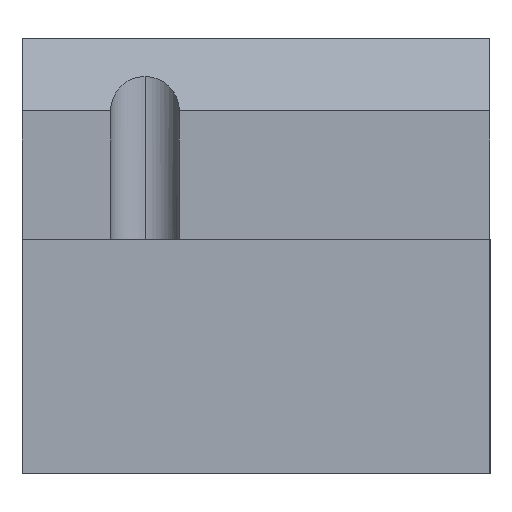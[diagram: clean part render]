
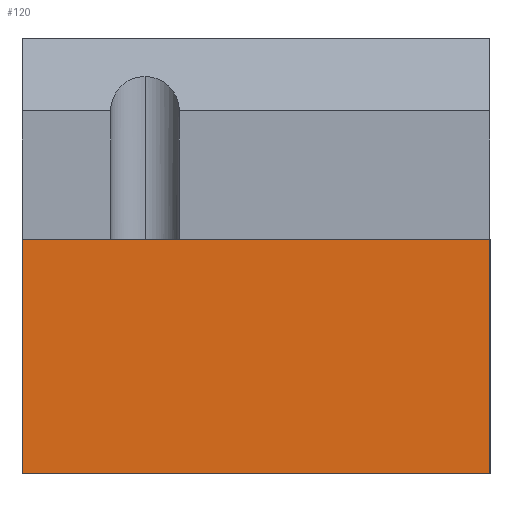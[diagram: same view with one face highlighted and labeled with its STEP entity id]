
A CAD part, left-side view. The second image highlights one B-rep face of the part: STEP entity #120.
In plain terms, the highlighted planar face has unit normal (-1, 0, 0).
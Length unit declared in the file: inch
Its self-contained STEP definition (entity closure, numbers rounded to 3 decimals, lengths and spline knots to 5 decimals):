
#14 = EDGE_CURVE ( 'NONE', #598, #610, #23, .T. ) ;
#23 = LINE ( 'NONE', #627, #224 ) ;
#68 = CARTESIAN_POINT ( 'NONE',  ( -1.86526, -0.81854, 0.875 ) ) ;
#71 = DIRECTION ( 'NONE',  ( 0., 1., 0. ) ) ;
#85 = EDGE_CURVE ( 'NONE', #823, #369, #243, .T. ) ;
#101 = ORIENTED_EDGE ( 'NONE', *, *, #85, .F. ) ;
#103 = DIRECTION ( 'NONE',  ( 0., 0., -1. ) ) ;
#120 = ADVANCED_FACE ( 'NONE', ( #333 ), #634, .F. ) ;
#150 = DIRECTION ( 'NONE',  ( 0., -1., 0. ) ) ;
#156 = CARTESIAN_POINT ( 'NONE',  ( -1.86526, 0.93146, 0. ) ) ;
#194 = EDGE_CURVE ( 'NONE', #610, #369, #425, .T. ) ;
#224 = VECTOR ( 'NONE', #769, 39.37008 ) ;
#243 = LINE ( 'NONE', #677, #830 ) ;
#267 = ORIENTED_EDGE ( 'NONE', *, *, #747, .T. ) ;
#271 = CARTESIAN_POINT ( 'NONE',  ( -1.86526, -0.81854, 0. ) ) ;
#333 = FACE_OUTER_BOUND ( 'NONE', #755, .T. ) ;
#369 = VERTEX_POINT ( 'NONE', #271 ) ;
#425 = LINE ( 'NONE', #156, #819 ) ;
#437 = ORIENTED_EDGE ( 'NONE', *, *, #194, .T. ) ;
#487 = ORIENTED_EDGE ( 'NONE', *, *, #14, .T. ) ;
#507 = AXIS2_PLACEMENT_3D ( 'NONE', #770, #708, #892 ) ;
#513 = CARTESIAN_POINT ( 'NONE',  ( -1.86526, 0.93146, 0. ) ) ;
#598 = VERTEX_POINT ( 'NONE', #820 ) ;
#610 = VERTEX_POINT ( 'NONE', #513 ) ;
#627 = CARTESIAN_POINT ( 'NONE',  ( -1.86526, 0.93146, 1.625 ) ) ;
#632 = CARTESIAN_POINT ( 'NONE',  ( -1.86526, -0.81854, 0.875 ) ) ;
#634 = PLANE ( 'NONE',  #507 ) ;
#677 = CARTESIAN_POINT ( 'NONE',  ( -1.86526, -0.81854, 1.625 ) ) ;
#708 = DIRECTION ( 'NONE',  ( 1., 0., 0. ) ) ;
#747 = EDGE_CURVE ( 'NONE', #823, #598, #889, .T. ) ;
#755 = EDGE_LOOP ( 'NONE', ( #101, #267, #487, #437 ) ) ;
#769 = DIRECTION ( 'NONE',  ( 0., 0., -1. ) ) ;
#770 = CARTESIAN_POINT ( 'NONE',  ( -1.86526, 0.93146, 1.625 ) ) ;
#819 = VECTOR ( 'NONE', #150, 39.37008 ) ;
#820 = CARTESIAN_POINT ( 'NONE',  ( -1.86526, 0.93146, 0.875 ) ) ;
#823 = VERTEX_POINT ( 'NONE', #632 ) ;
#830 = VECTOR ( 'NONE', #103, 39.37008 ) ;
#877 = VECTOR ( 'NONE', #71, 39.37008 ) ;
#889 = LINE ( 'NONE', #68, #877 ) ;
#892 = DIRECTION ( 'NONE',  ( 0., 1., 0. ) ) ;
